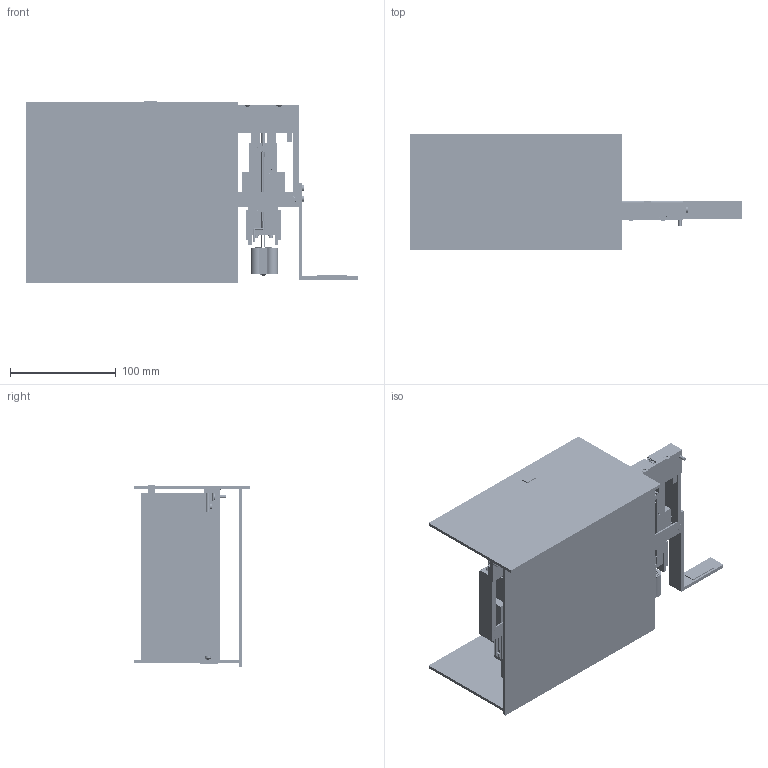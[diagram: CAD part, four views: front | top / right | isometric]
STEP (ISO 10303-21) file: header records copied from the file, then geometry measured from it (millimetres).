
FILE_DESCRIPTION(('SolidCraft model'),'2;1');
FILE_NAME('K2-Prototyp19v2.step','',(''),(''),'SolidCraft','SolidCraft','');
FILE_SCHEMA(('AP242_MANAGED_MODEL_BASED_3D_ENGINEERING_MIM_LF { 1 0 10303 442 1 1 4 }'));
Length unit declared in the file: millimetre
Products named in the file (2): K2-Prototyp19v2; Kopfplatine_P19_f10_s3
Assembly tree (1 placements, depth 2):
  K2-Prototyp19v2
    Kopfplatine_P19_f10_s3
Bounding box: 313.5 x 110 x 172.4 mm (x, y, z)
Volume: 721504.7 mm3; surface area: 546505.7 mm2
Topology: 618 solids, 618 shells, 21635 faces, 56940 edges, 37223 vertices
Faces by surface type: plane 15813, cylinder 3533, bspline 2165, cone 108, sphere 14, torus 2
Full cylindrical faces by diameter (mm): 0.2 x1, 0.3 x8, 0.35 x1, 0.6 x8, 0.65 x2, 0.8 x4, 1 x16, 1.2 x20, 1.6 x38, 2 x86, 2.2 x42, 2.3 x4, 2.4 x13, 2.5 x67, 2.6 x2, 3 x106, 3.05 x1, 3.1 x1, 3.2 x51, 3.3 x5, 3.4 x32, 3.5 x20, 3.6 x2, 3.8 x2, 4 x29, 4.2 x22, 4.6 x1, 4.85 x1, 5 x29, 5.2 x1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
Entity records: 900912 total; most frequent: CARTESIAN_POINT 283785, ORIENTED_EDGE 113840, PCURVE 98280, EDGE_CURVE 56920, SURFACE_CURVE 55624, LINE 43178, VERTEX_POINT 37223, B_SPLINE_CURVE_WITH_KNOTS 31766
